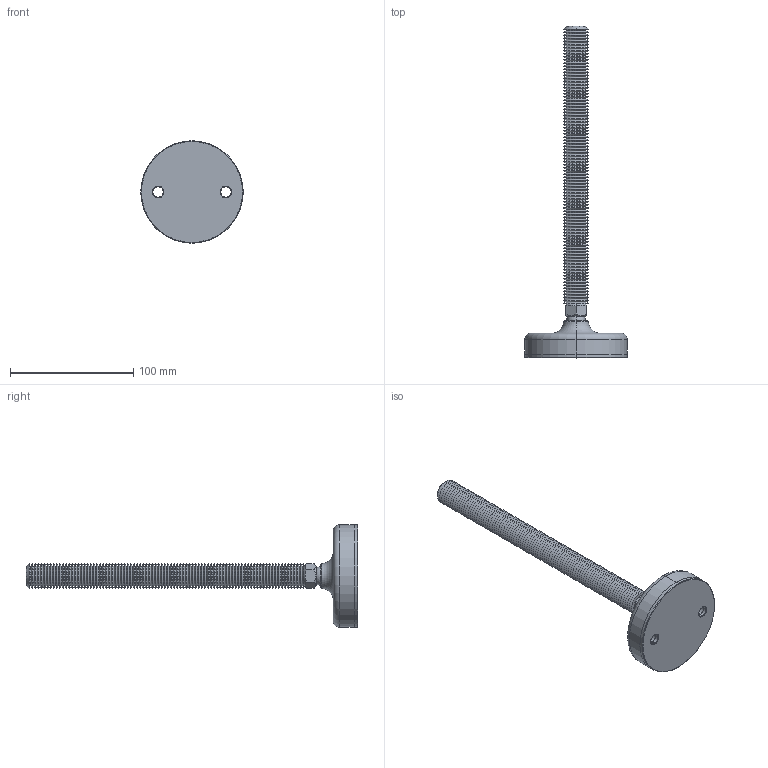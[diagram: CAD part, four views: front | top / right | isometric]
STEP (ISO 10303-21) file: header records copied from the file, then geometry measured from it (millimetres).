
FILE_DESCRIPTION (( 'STEP AP203' ), '1' );
FILE_NAME ('34724.W2006.step', '2019-11-28T22:17:11', ( '' ), ( '' ), 'SwSTEP 2.0', 'SolidWorks 2017', '' );
FILE_SCHEMA (( 'CONFIG_CONTROL_DESIGN' ));
Length unit declared in the file: millimetre
Products named in the file (4): Part1_34724.W2006; Part3_34724.W2006; 34724.W2006; Part2_34724.W2006
Assembly tree (3 placements, depth 2):
  34724.W2006
    Part1_34724.W2006
    Part2_34724.W2006
    Part3_34724.W2006
Bounding box: 83 x 269 x 83 mm (x, y, z)
Volume: 168858.5 mm3; surface area: 54039.4 mm2
Topology: 3 solids, 3 shells, 408 faces, 831 edges, 429 vertices
Faces by surface type: cone 374, plane 14, cylinder 12, sphere 4, torus 4
Entity records: 10862 total; most frequent: DIRECTION 2056, CARTESIAN_POINT 1808, ORIENTED_EDGE 1644, AXIS2_PLACEMENT_3D 832, EDGE_CURVE 822, VERTEX_POINT 424, EDGE_LOOP 420, CIRCLE 418
